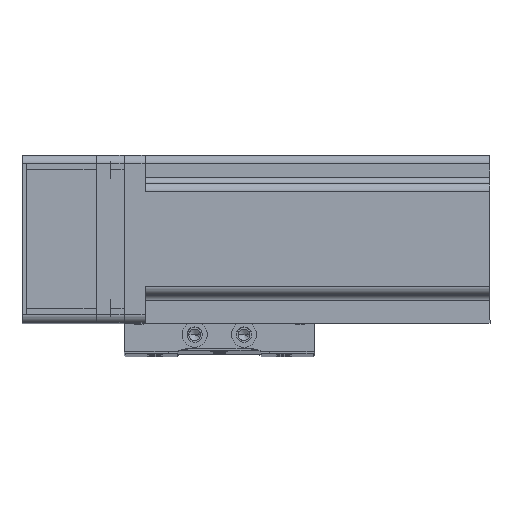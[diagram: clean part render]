
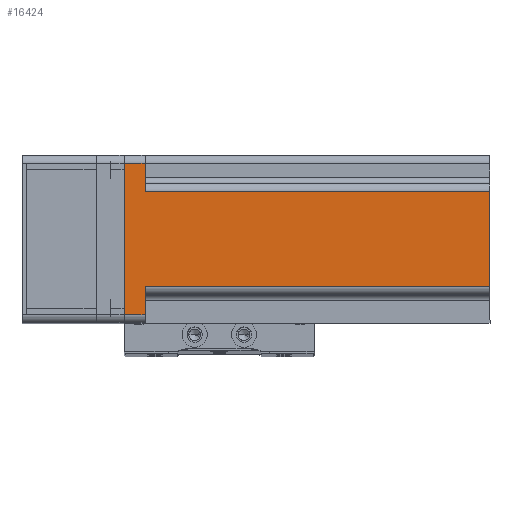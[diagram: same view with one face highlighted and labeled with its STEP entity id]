
A CAD part, top view. The second image highlights one B-rep face of the part: STEP entity #16424.
In plain terms, the highlighted planar face has unit normal (0, 0, 1) as drawn and (0, 1, 0) by its records, which use the part's own axes.
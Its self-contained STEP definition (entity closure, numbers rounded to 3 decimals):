
#163 = ORIENTED_EDGE ( 'NONE', *, *, #14088, .T. ) ;
#1119 = LINE ( 'NONE', #20987, #11337 ) ;
#1869 = VERTEX_POINT ( 'NONE', #14288 ) ;
#2648 = VERTEX_POINT ( 'NONE', #26272 ) ;
#3096 = VECTOR ( 'NONE', #35684, 1000. ) ;
#3131 = ORIENTED_EDGE ( 'NONE', *, *, #10750, .T. ) ;
#3243 = VERTEX_POINT ( 'NONE', #12899 ) ;
#4076 = LINE ( 'NONE', #48314, #38356 ) ;
#4363 = ORIENTED_EDGE ( 'NONE', *, *, #21139, .T. ) ;
#5048 = CARTESIAN_POINT ( 'NONE',  ( 30., 30., 130.7 ) ) ;
#6357 = VERTEX_POINT ( 'NONE', #29979 ) ;
#6715 = CARTESIAN_POINT ( 'NONE',  ( 17., 30., 130.7 ) ) ;
#7473 = ORIENTED_EDGE ( 'NONE', *, *, #44750, .F. ) ;
#8907 = DIRECTION ( 'NONE',  ( 1., 0., 0. ) ) ;
#9590 = CARTESIAN_POINT ( 'NONE',  ( -17., 30., 7.5 ) ) ;
#10750 = EDGE_CURVE ( 'NONE', #2648, #42400, #16918, .T. ) ;
#11337 = VECTOR ( 'NONE', #47822, 1000. ) ;
#12560 = DIRECTION ( 'NONE',  ( -1., 0., 0. ) ) ;
#12665 = CARTESIAN_POINT ( 'NONE',  ( -17., 30., 130.7 ) ) ;
#12899 = CARTESIAN_POINT ( 'NONE',  ( 17., 30., 7.5 ) ) ;
#13305 = LINE ( 'NONE', #12665, #3096 ) ;
#13336 = EDGE_CURVE ( 'NONE', #6357, #1869, #47651, .T. ) ;
#13485 = VECTOR ( 'NONE', #34056, 1000. ) ;
#14088 = EDGE_CURVE ( 'NONE', #1869, #43435, #14711, .T. ) ;
#14288 = CARTESIAN_POINT ( 'NONE',  ( 27., 30., 0. ) ) ;
#14711 = LINE ( 'NONE', #15022, #35145 ) ;
#15022 = CARTESIAN_POINT ( 'NONE',  ( 30., 30., 0. ) ) ;
#15700 = VECTOR ( 'NONE', #45557, 1000. ) ;
#16424 = ADVANCED_FACE ( 'NONE', ( #38947 ), #35606, .F. ) ;
#16918 = LINE ( 'NONE', #49461, #15700 ) ;
#17469 = CARTESIAN_POINT ( 'NONE',  ( 27., 30., 130.7 ) ) ;
#18275 = CARTESIAN_POINT ( 'NONE',  ( -27., 30., 130.7 ) ) ;
#18548 = EDGE_CURVE ( 'NONE', #42400, #22540, #13305, .T. ) ;
#18909 = DIRECTION ( 'NONE',  ( -1., 0., 0. ) ) ;
#20987 = CARTESIAN_POINT ( 'NONE',  ( 17., 30., 130.7 ) ) ;
#21139 = EDGE_CURVE ( 'NONE', #43435, #2648, #44078, .T. ) ;
#21469 = DIRECTION ( 'NONE',  ( -1., 0., 0. ) ) ;
#22271 = EDGE_LOOP ( 'NONE', ( #3131, #46310, #7473, #34432, #43047, #34217, #163, #4363 ) ) ;
#22540 = VERTEX_POINT ( 'NONE', #48712 ) ;
#25014 = VECTOR ( 'NONE', #12560, 1000. ) ;
#26272 = CARTESIAN_POINT ( 'NONE',  ( -27., 30., 7.5 ) ) ;
#27344 = CARTESIAN_POINT ( 'NONE',  ( -27., 30., 0. ) ) ;
#29979 = CARTESIAN_POINT ( 'NONE',  ( 27., 30., 7.5 ) ) ;
#31938 = DIRECTION ( 'NONE',  ( 0., -1., 0. ) ) ;
#34056 = DIRECTION ( 'NONE',  ( 0., 0., 1. ) ) ;
#34217 = ORIENTED_EDGE ( 'NONE', *, *, #13336, .T. ) ;
#34432 = ORIENTED_EDGE ( 'NONE', *, *, #34755, .T. ) ;
#34755 = EDGE_CURVE ( 'NONE', #42571, #3243, #1119, .T. ) ;
#35145 = VECTOR ( 'NONE', #18909, 1000. ) ;
#35588 = CARTESIAN_POINT ( 'NONE',  ( 20., 30., 7.5 ) ) ;
#35606 = PLANE ( 'NONE',  #36584 ) ;
#35684 = DIRECTION ( 'NONE',  ( 0., 0., 1. ) ) ;
#36398 = LINE ( 'NONE', #35588, #25014 ) ;
#36584 = AXIS2_PLACEMENT_3D ( 'NONE', #5048, #31938, #8907 ) ;
#38356 = VECTOR ( 'NONE', #21469, 1000. ) ;
#38947 = FACE_OUTER_BOUND ( 'NONE', #22271, .T. ) ;
#42400 = VERTEX_POINT ( 'NONE', #9590 ) ;
#42571 = VERTEX_POINT ( 'NONE', #6715 ) ;
#43047 = ORIENTED_EDGE ( 'NONE', *, *, #47660, .F. ) ;
#43435 = VERTEX_POINT ( 'NONE', #27344 ) ;
#44078 = LINE ( 'NONE', #18275, #13485 ) ;
#44750 = EDGE_CURVE ( 'NONE', #42571, #22540, #4076, .T. ) ;
#45557 = DIRECTION ( 'NONE',  ( 1., 0., 0. ) ) ;
#46310 = ORIENTED_EDGE ( 'NONE', *, *, #18548, .T. ) ;
#46449 = VECTOR ( 'NONE', #48195, 1000. ) ;
#47651 = LINE ( 'NONE', #17469, #46449 ) ;
#47660 = EDGE_CURVE ( 'NONE', #6357, #3243, #36398, .T. ) ;
#47822 = DIRECTION ( 'NONE',  ( 0., 0., -1. ) ) ;
#48195 = DIRECTION ( 'NONE',  ( 0., 0., -1. ) ) ;
#48314 = CARTESIAN_POINT ( 'NONE',  ( 30., 30., 130.7 ) ) ;
#48712 = CARTESIAN_POINT ( 'NONE',  ( -17., 30., 130.7 ) ) ;
#49461 = CARTESIAN_POINT ( 'NONE',  ( -20., 30., 7.5 ) ) ;
